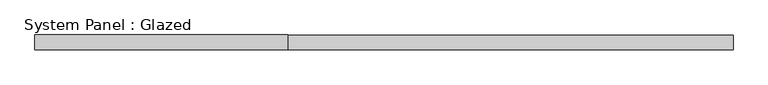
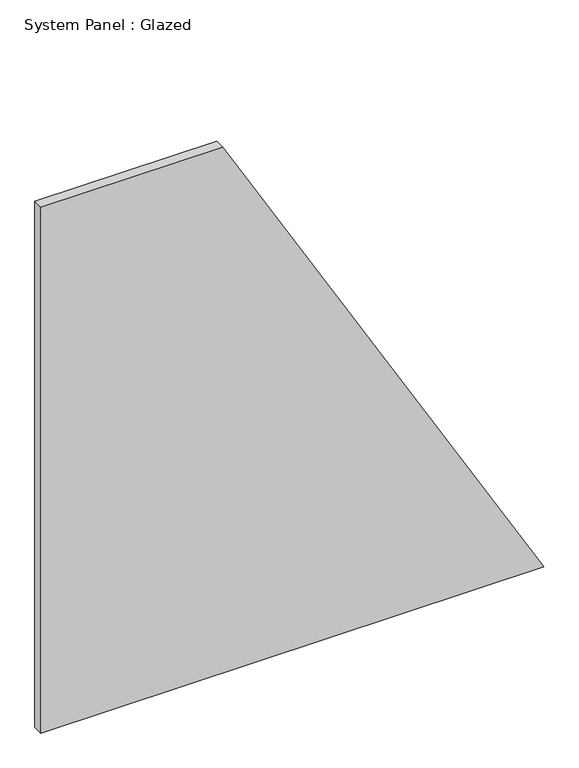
"""IFC4 building model written with IfcOpenShell, lengths in millimetres: plate geometry, System Panel : Glazed."""

from ifc_helpers import new_model, si_unit, frame, origin, place, context, project, spatial, polyline, outline, extrude, source, transform, mapped, element, save


def system_panel_glazed_f067ecaa(model_context):
    return source(origin(), model_context, "Body", "SweptSolid", [
        extrude(outline(polyline([(0.0, -606.2283315), (0.0, 606.2283315), (1340.1963401, -167.5343862), (1340.1963401, -606.2283315), (0.0, -606.2283315)])), frame((0.0, 19.05, 0.0), z_axis=(0.0, 1.0, 0.0), x_axis=(0.0, 0.0, 1.0)), (0.0, 0.0, 1.0), 25.4),
    ])


if __name__ == "__main__":
    model = new_model("IFC4")
    model_context = context("Model", 3, world=origin())
    ifc_project = project(units=[si_unit("LENGTHUNIT", "METRE", prefix="MILLI")], contexts=[model_context])
    site = spatial("IfcSite", under=ifc_project)
    building = spatial("IfcBuilding", under=site)
    placement = place(None, origin())
    system_panel_glazed_shape = system_panel_glazed_f067ecaa(model_context)
    element("IfcPlate", 1, ObjectType="System Panel : Glazed", at=placement, inside=building, context=model_context, shape_type="MappedRepresentation", body=[
        mapped(system_panel_glazed_shape, transform((0.0, 0.0, 0.0), x_axis=(1.0, 0.0, 0.0), y_axis=(0.0, 1.0, 0.0), z_axis=(0.0, 0.0, 1.0))),
    ])
    save(model, "model.ifc")
